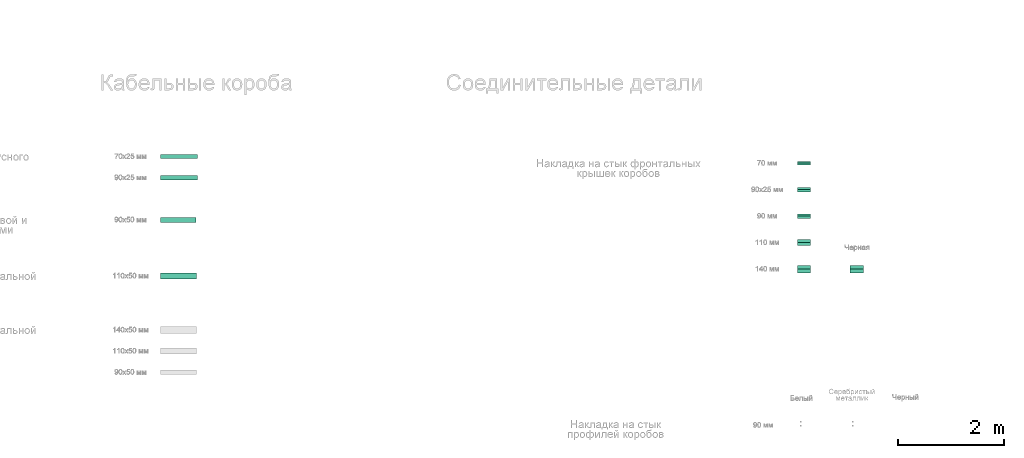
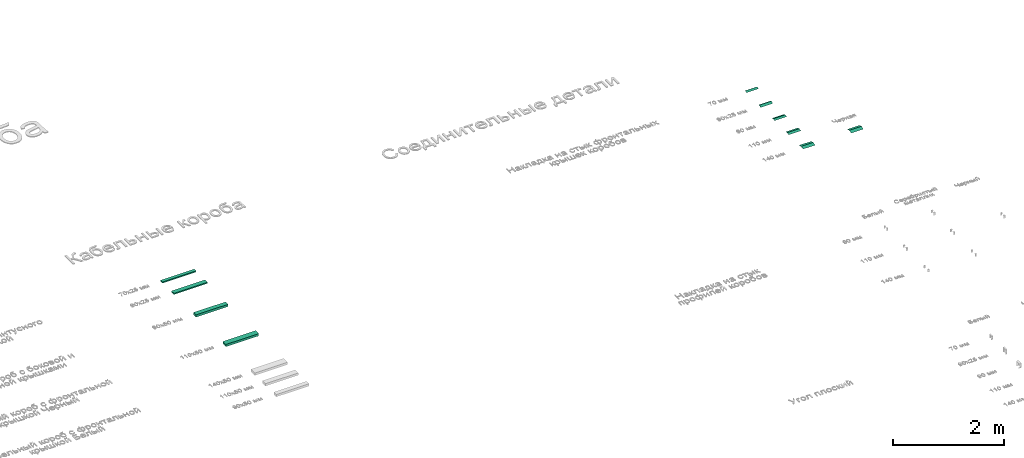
# One storey, part 12 of 87: 6 flow fittings, 4 flow segments.
"""IFC2X3 building model written with IfcOpenShell, lengths in millimetres."""

from ifc_helpers import new_model, entity, si_unit, converted_unit, derived_unit, direction, frame, frame_2d, origin, place, context, subcontext, project, spatial, polyline, rectangle, outline, extrude, source, transform, mapped, type_object, type_shapes, element, save


model = new_model("IFC2X3")

# Units and contexts
model_context = context("Model", 3, precision=0.01, world=origin(), true_north=direction((6.12303176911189e-17, 1.0)))
body_context = subcontext(model_context, "Body", "Model", "MODEL_VIEW")
ifc_project = project(units=[si_unit("LENGTHUNIT", "METRE", prefix="MILLI"), si_unit("AREAUNIT", "SQUARE_METRE"), si_unit("VOLUMEUNIT", "CUBIC_METRE"), converted_unit("PLANEANGLEUNIT", "DEGREE", entity("IfcRatioMeasure", 0.0174532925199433), si_unit("PLANEANGLEUNIT", "RADIAN"), dimensions=[0, 0, 0, 0, 0, 0, 0]), si_unit("MASSUNIT", "GRAM", prefix="KILO"), derived_unit("MASSDENSITYUNIT", [(si_unit("MASSUNIT", "GRAM", prefix="KILO"), 1), (si_unit("LENGTHUNIT", "METRE"), -3)]), si_unit("TIMEUNIT", "SECOND"), si_unit("FREQUENCYUNIT", "HERTZ"), si_unit("THERMODYNAMICTEMPERATUREUNIT", "DEGREE_CELSIUS"), derived_unit("THERMALTRANSMITTANCEUNIT", [(si_unit("MASSUNIT", "GRAM", prefix="KILO"), 1), (si_unit("THERMODYNAMICTEMPERATUREUNIT", "KELVIN"), -1), (si_unit("TIMEUNIT", "SECOND"), -3)]), derived_unit("VOLUMETRICFLOWRATEUNIT", [(si_unit("LENGTHUNIT", "METRE"), 3), (si_unit("TIMEUNIT", "SECOND"), -1)]), si_unit("ELECTRICCURRENTUNIT", "AMPERE"), si_unit("ELECTRICVOLTAGEUNIT", "VOLT"), si_unit("POWERUNIT", "WATT"), si_unit("FORCEUNIT", "NEWTON", prefix="KILO"), si_unit("ILLUMINANCEUNIT", "LUX"), si_unit("LUMINOUSFLUXUNIT", "LUMEN"), si_unit("LUMINOUSINTENSITYUNIT", "CANDELA"), derived_unit("USERDEFINED", [(si_unit("MASSUNIT", "GRAM", prefix="KILO"), -1), (si_unit("LENGTHUNIT", "METRE"), -2), (si_unit("TIMEUNIT", "SECOND"), 3), (si_unit("LUMINOUSFLUXUNIT", "LUMEN"), 1)]), derived_unit("LINEARVELOCITYUNIT", [(si_unit("LENGTHUNIT", "METRE"), 1), (si_unit("TIMEUNIT", "SECOND"), -1)]), si_unit("PRESSUREUNIT", "PASCAL"), derived_unit("USERDEFINED", [(si_unit("LENGTHUNIT", "METRE"), -2), (si_unit("MASSUNIT", "GRAM", prefix="KILO"), 1), (si_unit("TIMEUNIT", "SECOND"), -2)])], contexts=[model_context])

# Site, building, storey
site_placement = place(None, origin())
site = spatial("IfcSite", under=ifc_project, at=site_placement, Name="Default", CompositionType="ELEMENT")
building_placement = place(site_placement, origin())
building = spatial("IfcBuilding", under=site, at=building_placement, Name="Наименование здания", CompositionType="ELEMENT")
storey_placement = place(building_placement, origin())
storey = spatial("IfcBuildingStorey", under=building, at=storey_placement, Name="Этаж 01", CompositionType="ELEMENT", Elevation=0.0)

# Flow segments
cable_carrier_segment_type_1 = type_object("IfcCableCarrierSegmentType", Name="Кабельный лоток с соединительными деталями:Кабельный короб с фронтальной крышкой Черный", PredefinedType="CABLETRAYSEGMENT")
flow_segment_1_placement = place(storey_placement, origin())
element("IfcFlowSegment", 1, at=flow_segment_1_placement, inside=storey, type_object=cable_carrier_segment_type_1, Name="Кабельный лоток с соединительными деталями:Кабельный короб с фронтальной крышкой Черный", ObjectType="Кабельный лоток с соединительными деталями:Кабельный короб с фронтальной крышкой Черный", context=body_context, shape_type="SweptSolid", body=[
    extrude(rectangle(XDim=680.0, YDim=110.0, at=frame_2d((0.0, -1.35003119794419e-13), x_axis=(1.0, 0.0))), frame((1345.40052931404, 2388.91140209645, -25.0)), (0.0, 0.0, 1.0), 50.0),
])
cable_carrier_segment_type_2 = type_object("IfcCableCarrierSegmentType", Name="Кабельный лоток с соединительными деталями:Кабельный короб плинтусного типа с крышкой", PredefinedType="CABLETRAYSEGMENT")
flow_segment_2_placement = place(storey_placement, origin())
element("IfcFlowSegment", 2, at=flow_segment_2_placement, inside=storey, type_object=cable_carrier_segment_type_2, Name="Кабельный лоток с соединительными деталями:Кабельный короб плинтусного типа с крышкой", ObjectType="Кабельный лоток с соединительными деталями:Кабельный короб плинтусного типа с крышкой", context=body_context, shape_type="SweptSolid", body=[
    extrude(rectangle(XDim=696.360389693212, YDim=70.0000000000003, at=frame_2d((0.0, -2.70006239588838e-13), x_axis=(1.0, 0.0))), frame((1353.58072416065, 4645.46045342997, -12.4999999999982)), (0.0, 0.0, 1.0), 25.0),
])
flow_segment_3_placement = place(storey_placement, origin())
element("IfcFlowSegment", 3, at=flow_segment_3_placement, inside=storey, type_object=cable_carrier_segment_type_2, Name="Кабельный лоток с соединительными деталями:Кабельный короб плинтусного типа с крышкой", ObjectType="Кабельный лоток с соединительными деталями:Кабельный короб плинтусного типа с крышкой", context=body_context, shape_type="SweptSolid", body=[
    extrude(rectangle(XDim=696.360389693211, YDim=90.0000000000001, at=frame_2d((-8.5265128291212e-14, 2.70006239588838e-13), x_axis=(1.0, 0.0))), frame((1353.58072416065, 4245.46045342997, -12.4999999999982)), (0.0, 0.0, 1.0), 25.0),
])

# Flow fitting
cable_carrier_fitting_type_1 = type_object("IfcCableCarrierFittingType", Name="Накладка на стык фронтальных крышек коробов", PredefinedType="NOTDEFINED")
shared_shape_1 = source(origin(), body_context, "Body", "SweptSolid", [
    extrude(outline(polyline([(-3.42979174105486, 6.78207406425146), (35.7912485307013, 6.78207406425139), (-5.68623367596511, 11.2439648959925), (-26.6752231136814, -24.8081130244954), (-3.42979174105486, 6.78207406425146)])), frame((-125.0, 0.0, 35.1000000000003), z_axis=(1.0, 0.0, 0.0), x_axis=(0.0, 0.892378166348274, -0.451288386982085)), (0.0, 0.0, 1.0), 250.0),
])
type_shapes(cable_carrier_fitting_type_1, [shared_shape_1])
flow_fitting_1_placement = place(storey_placement, frame((13161.9982063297, 4519.13655567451, 0.0)))
element("IfcFlowFitting", 4, at=flow_fitting_1_placement, inside=storey, type_object=cable_carrier_fitting_type_1, Name="КНС_НакладкаНаСтыкФронтальныхКрышекКоробов_ILF_DKC:Накладка на стык фронтальных крышек коробов", ObjectType="Накладка на стык фронтальных крышек коробов", context=body_context, shape_type="MappedRepresentation", body=[
    mapped(shared_shape_1, transform((0.0, 0.0, 0.0), scale=1.0)),
])

# Flow segment
cable_carrier_segment_type_3 = type_object("IfcCableCarrierSegmentType", Name="Кабельный лоток с соединительными деталями:Кабельный короб с боковой и фронтальной крышками", PredefinedType="CABLETRAYSEGMENT")
flow_segment_4_placement = place(storey_placement, origin())
element("IfcFlowSegment", 5, at=flow_segment_4_placement, inside=storey, type_object=cable_carrier_segment_type_3, Name="Кабельный лоток с соединительными деталями:Кабельный короб с боковой и фронтальной крышками", ObjectType="Кабельный лоток с соединительными деталями:Кабельный короб с боковой и фронтальной крышками", context=body_context, shape_type="SweptSolid", body=[
    extrude(rectangle(XDim=665.0, YDim=90.0000000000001, at=frame_2d((0.0, -2.70006239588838e-13), x_axis=(1.0, 0.0))), frame((1337.90052931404, 3448.91140209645, -25.0), z_axis=(0.0, 0.0, 1.0), x_axis=(-1.0, 0.0, 0.0)), (0.0, 0.0, 1.0), 50.0),
])

# Flow fittings
cable_carrier_fitting_type_2 = type_object("IfcCableCarrierFittingType", Name="Накладка на стык фронтальных крышек коробов", PredefinedType="NOTDEFINED")
shared_shape_2 = source(origin(), body_context, "Body", "SweptSolid", [
    extrude(outline(polyline([(-3.76694681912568, 8.22876732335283), (45.7240624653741, 8.22876732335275), (-5.84813290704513, 12.7750476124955), (-36.1089827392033, -29.2325822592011), (-3.76694681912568, 8.22876732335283)])), frame((-125.0, 0.0, 24.0500000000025), z_axis=(1.0, 0.0, 0.0), x_axis=(0.0, 0.909256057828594, -0.416237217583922)), (0.0, 0.0, 1.0), 250.0),
])
type_shapes(cable_carrier_fitting_type_2, [shared_shape_2])
flow_fitting_2_placement = place(storey_placement, frame((13161.9982063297, 4019.13655567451, 0.0)))
element("IfcFlowFitting", 6, at=flow_fitting_2_placement, inside=storey, type_object=cable_carrier_fitting_type_2, Name="КНС_НакладкаНаСтыкФронтальныхКрышекКоробов_ILF_DKC:Накладка на стык фронтальных крышек коробов", ObjectType="Накладка на стык фронтальных крышек коробов", context=body_context, shape_type="MappedRepresentation", body=[
    mapped(shared_shape_2, transform((0.0, 0.0, 0.0), scale=1.0)),
])
cable_carrier_fitting_type_3 = type_object("IfcCableCarrierFittingType", Name="Накладка на стык фронтальных крышек коробов", PredefinedType="NOTDEFINED")
shared_shape_3 = source(origin(), body_context, "Body", "SweptSolid", [
    extrude(outline(polyline([(-0.813489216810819, 3.66070147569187), (45.2842330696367, 3.66070147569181), (-1.89814150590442, 8.54163677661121), (-42.5726023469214, -15.8630397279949), (-0.813489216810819, 3.66070147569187)])), frame((-125.0, 0.0, 31.2500000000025), z_axis=(1.0, 0.0, 0.0), x_axis=(0.0, 0.976187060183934, -0.216930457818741)), (0.0, 0.0, 1.0), 250.0),
])
type_shapes(cable_carrier_fitting_type_3, [shared_shape_3])
flow_fitting_3_placement = place(storey_placement, frame((13161.9982063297, 3519.13655567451, 0.0)))
element("IfcFlowFitting", 7, at=flow_fitting_3_placement, inside=storey, type_object=cable_carrier_fitting_type_3, Name="КНС_НакладкаНаСтыкФронтальныхКрышекКоробов_ILF_DKC:Накладка на стык фронтальных крышек коробов", ObjectType="Накладка на стык фронтальных крышек коробов", context=body_context, shape_type="MappedRepresentation", body=[
    mapped(shared_shape_3, transform((0.0, 0.0, 0.0), scale=1.0)),
])
cable_carrier_fitting_type_4 = type_object("IfcCableCarrierFittingType", Name="Накладка на стык фронтальных крышек коробов", PredefinedType="NOTDEFINED")
shared_shape_4 = source(origin(), body_context, "Body", "SweptSolid", [
    extrude(outline(polyline([(-0.670820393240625, 3.68951216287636), (55.230879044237, 3.68951216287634), (-1.56524758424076, 8.60886171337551), (-52.9948110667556, -15.9878860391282), (-0.670820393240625, 3.68951216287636)])), frame((-125.0, 0.0, 31.2500000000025), z_axis=(1.0, 0.0, 0.0), x_axis=(0.0, 0.983869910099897, -0.178885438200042)), (0.0, 0.0, 1.0), 250.0),
])
type_shapes(cable_carrier_fitting_type_4, [shared_shape_4])
flow_fitting_4_placement = place(storey_placement, frame((13161.9982063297, 3019.13655567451, 0.0)))
element("IfcFlowFitting", 8, at=flow_fitting_4_placement, inside=storey, type_object=cable_carrier_fitting_type_4, Name="КНС_НакладкаНаСтыкФронтальныхКрышекКоробов_ILF_DKC:Накладка на стык фронтальных крышек коробов", ObjectType="Накладка на стык фронтальных крышек коробов", context=body_context, shape_type="MappedRepresentation", body=[
    mapped(shared_shape_4, transform((0.0, 0.0, 0.0), scale=1.0)),
])
cable_carrier_fitting_type_5 = type_object("IfcCableCarrierFittingType", Name="Накладка на стык фронтальных крышек коробов", PredefinedType="NOTDEFINED")
shared_shape_5 = source(origin(), body_context, "Body", "SweptSolid", [
    extrude(outline(polyline([(-1.12766777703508, 5.63833888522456), (70.2586054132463, 5.63833888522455), (-2.10824845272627, 10.5412422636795), (-67.0226891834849, -21.8179200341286), (-1.12766777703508, 5.63833888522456)])), frame((-125.0, 0.0, 33.2500000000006), z_axis=(1.0, 0.0, 0.0), x_axis=(0.0, 0.980580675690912, -0.196116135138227)), (0.0, 0.0, 1.0), 250.0),
])
type_shapes(cable_carrier_fitting_type_5, [shared_shape_5])
flow_fitting_5_placement = place(storey_placement, frame((13161.9982063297, 2519.13655567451, 0.0)))
element("IfcFlowFitting", 9, at=flow_fitting_5_placement, inside=storey, type_object=cable_carrier_fitting_type_5, Name="КНС_НакладкаНаСтыкФронтальныхКрышекКоробов_ILF_DKC:Накладка на стык фронтальных крышек коробов", ObjectType="Накладка на стык фронтальных крышек коробов", context=body_context, shape_type="MappedRepresentation", body=[
    mapped(shared_shape_5, transform((0.0, 0.0, 0.0), scale=1.0)),
])
cable_carrier_fitting_type_6 = type_object("IfcCableCarrierFittingType", Name="Накладка на стык фронтальных крышек коробов", PredefinedType="NOTDEFINED")
shared_shape_6 = source(origin(), body_context, "Body", "SweptSolid", [
    extrude(outline(polyline([(-1.12766777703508, 5.63833888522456), (70.2586054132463, 5.63833888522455), (-2.10824845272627, 10.5412422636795), (-67.0226891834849, -21.8179200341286), (-1.12766777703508, 5.63833888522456)])), frame((-125.0, 0.0, 33.2500000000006), z_axis=(1.0, 0.0, 0.0), x_axis=(0.0, 0.980580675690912, -0.196116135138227)), (0.0, 0.0, 1.0), 250.0),
])
type_shapes(cable_carrier_fitting_type_6, [shared_shape_6])
flow_fitting_6_placement = place(storey_placement, frame((14161.9982063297, 2519.13655567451, 0.0)))
element("IfcFlowFitting", 10, at=flow_fitting_6_placement, inside=storey, type_object=cable_carrier_fitting_type_6, Name="КНС_НакладкаНаСтыкФронтальныхКрышекКоробов_ILF_DKC:Накладка на стык фронтальных крышек коробов", ObjectType="Накладка на стык фронтальных крышек коробов", context=body_context, shape_type="MappedRepresentation", body=[
    mapped(shared_shape_6, transform((0.0, 0.0, 0.0), scale=1.0)),
])

save(model, "model.ifc")
